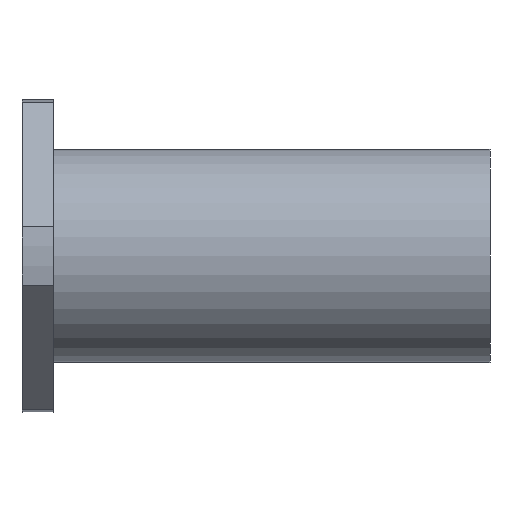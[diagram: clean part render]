
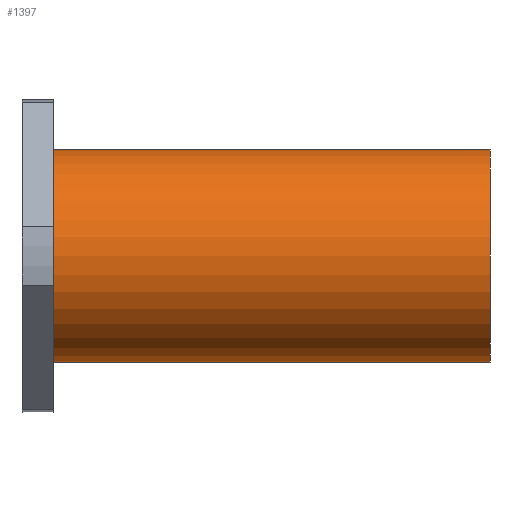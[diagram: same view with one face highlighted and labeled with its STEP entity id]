
A CAD part, front view. The second image highlights one B-rep face of the part: STEP entity #1397.
In plain terms, the highlighted cylindrical face has radius 51 mm (diameter 102 mm), a full revolution.
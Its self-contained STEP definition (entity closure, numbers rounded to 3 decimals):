
#439=CARTESIAN_POINT('',(15.,0.0,51.));
#440=VERTEX_POINT('',#439);
#441=CARTESIAN_POINT('',(15.,0.0,0.0));
#442=DIRECTION('',(-1.0,0.0,0.0));
#443=DIRECTION('',(0.0,0.0,1.0));
#444=AXIS2_PLACEMENT_3D('',#441,#442,#443);
#445=CIRCLE('',#444,51.);
#446=EDGE_CURVE('',#440,#440,#445,.T.);
#1378=CARTESIAN_POINT('',(119.5,0.0,0.0));
#1379=DIRECTION('',(-1.0,0.0,0.0));
#1380=DIRECTION('',(0.0,0.0,1.0));
#1381=AXIS2_PLACEMENT_3D('',#1378,#1379,#1380);
#1382=CYLINDRICAL_SURFACE('',#1381,51.);
#1383=ORIENTED_EDGE('',*,*,#446,.F.);
#1384=EDGE_LOOP('',(#1383));
#1385=FACE_OUTER_BOUND('',#1384,.T.);
#1386=CARTESIAN_POINT('',(224.0,0.0,51.));
#1387=VERTEX_POINT('',#1386);
#1388=CARTESIAN_POINT('',(224.0,0.0,0.0));
#1389=DIRECTION('',(-1.0,0.0,0.0));
#1390=DIRECTION('',(0.0,0.0,1.0));
#1391=AXIS2_PLACEMENT_3D('',#1388,#1389,#1390);
#1392=CIRCLE('',#1391,51.);
#1393=EDGE_CURVE('',#1387,#1387,#1392,.T.);
#1394=ORIENTED_EDGE('',*,*,#1393,.T.);
#1395=EDGE_LOOP('',(#1394));
#1396=FACE_BOUND('',#1395,.T.);
#1397=ADVANCED_FACE('',(#1385,#1396),#1382,.T.);
